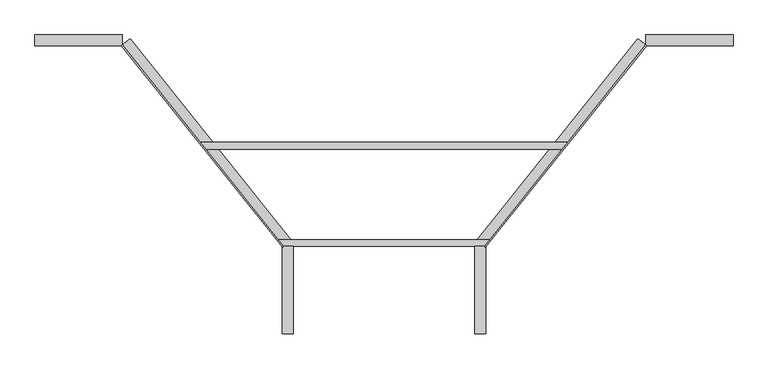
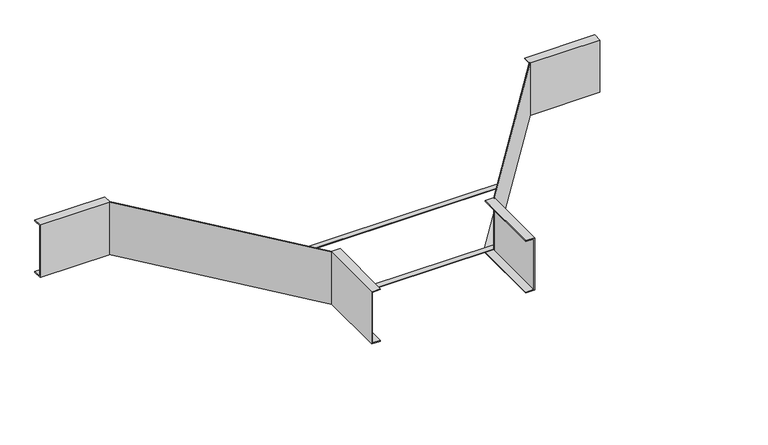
"""IFC4 building model written with IfcOpenShell, lengths in millimetres: cable carrier fitting geometry, BAKS_LDLS_TEE_Addon tee_TDSU : TDSUP_H100."""

from ifc_helpers import new_model, si_unit, frame, origin, place, context, project, spatial, polyline, outline, extrude, source, transform, mapped, element, save


def cable_carrier_fitting_fa28906a(model_context):
    return source(origin(), model_context, "Body", "SweptSolid", [
        extrude(outline(polyline([(158.0, -440.0), (150.0, -450.0), (-150.0, -450.0), (-158.0, -440.0), (158.0, -440.0)])), frame((0.0, 0.0, -50.0), z_axis=(0.0, 0.0, 1.0), x_axis=(1.0, 0.0, 0.0)), (0.0, 0.0, 1.0), 1.5),
        extrude(outline(polyline([(274.0, -295.0), (266.0, -305.0), (-266.0, -305.0), (-274.0, -295.0), (274.0, -295.0)])), frame((0.0, 0.0, -50.0), z_axis=(0.0, 0.0, 1.0), x_axis=(1.0, 0.0, 0.0)), (0.0, 0.0, 1.0), 1.5),
        extrude(outline(polyline([(51.5, 1.5), (51.5, 0.0), (-50.0, 0.0), (-50.0, -15.0), (-51.5, -15.0), (-51.5, 1.5), (51.5, 1.5)])), frame((150.0, -450.0, 0.0), z_axis=(0.6246950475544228, 0.7808688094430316, 0.0), x_axis=(0.0, 0.0, 1.0)), (0.0, 0.0, 1.0), 384.1874542),
        extrude(outline(polyline([(51.5, -1.5), (-51.5, -1.5), (-51.5, 15.0), (-50.0, 15.0), (-50.0, 0.0), (51.5, 0.0), (51.5, -1.5)])), frame((-150.0, -450.0, 0.0), z_axis=(-0.6246950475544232, 0.7808688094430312, 0.0), x_axis=(0.0, 0.0, 1.0)), (0.0, 0.0, 1.0), 384.1874542),
        extrude(outline(polyline([(51.5, 135.0), (50.0, 135.0), (50.0, 150.0), (-50.0, 150.0), (-50.0, 135.0), (-51.5, 135.0), (-51.5, 151.5), (51.5, 151.5), (51.5, 135.0)])), frame((0.0, -580.0, 0.0), z_axis=(0.0, 1.0, 0.0), x_axis=(0.0, 0.0, 1.0)), (0.0, 0.0, 1.0), 130.0),
        extrude(outline(polyline([(51.5, -135.0), (51.5, -151.5), (-51.5, -151.5), (-51.5, -135.0), (-50.0, -135.0), (-50.0, -150.0), (50.0, -150.0), (50.0, -135.0), (51.5, -135.0)])), frame((0.0, -580.0, 0.0), z_axis=(0.0, 1.0, 0.0), x_axis=(0.0, 0.0, 1.0)), (0.0, 0.0, 1.0), 130.0),
        extrude(outline(polyline([(-135.0, 51.5), (-135.0, 50.0), (-150.0, 50.0), (-150.0, -50.0), (-135.0, -50.0), (-135.0, -51.5), (-151.5, -51.5), (-151.5, 51.5), (-135.0, 51.5)])), frame((390.0, 0.0, 0.0), z_axis=(1.0, 0.0, 0.0), x_axis=(0.0, 1.0, 0.0)), (0.0, 0.0, 1.0), 130.0),
        extrude(outline(polyline([(-135.0, 51.5), (-135.0, 50.0), (-150.0, 50.0), (-150.0, -50.0), (-135.0, -50.0), (-135.0, -51.5), (-151.5, -51.5), (-151.5, 51.5), (-135.0, 51.5)])), frame((-520.0, 0.0, 0.0), z_axis=(1.0, 0.0, 0.0), x_axis=(0.0, 1.0, 0.0)), (0.0, 0.0, 1.0), 130.0),
    ])


if __name__ == "__main__":
    model = new_model("IFC4")
    model_context = context("Model", 3, world=origin())
    ifc_project = project(units=[si_unit("LENGTHUNIT", "METRE", prefix="MILLI")], contexts=[model_context])
    site = spatial("IfcSite", under=ifc_project)
    building = spatial("IfcBuilding", under=site)
    placement = place(None, origin())
    cable_carrier_fitting_shape = cable_carrier_fitting_fa28906a(model_context)
    element("IfcCableCarrierFitting", 1, ObjectType="BAKS_LDLS_TEE_Addon tee_TDSU : TDSUP_H100", at=placement, inside=building, context=model_context, shape_type="MappedRepresentation", body=[
        mapped(cable_carrier_fitting_shape, transform((0.0, 0.0, 0.0), x_axis=(1.0, 0.0, 0.0), y_axis=(0.0, 1.0, 0.0), z_axis=(0.0, 0.0, 1.0))),
    ])
    save(model, "model.ifc")
